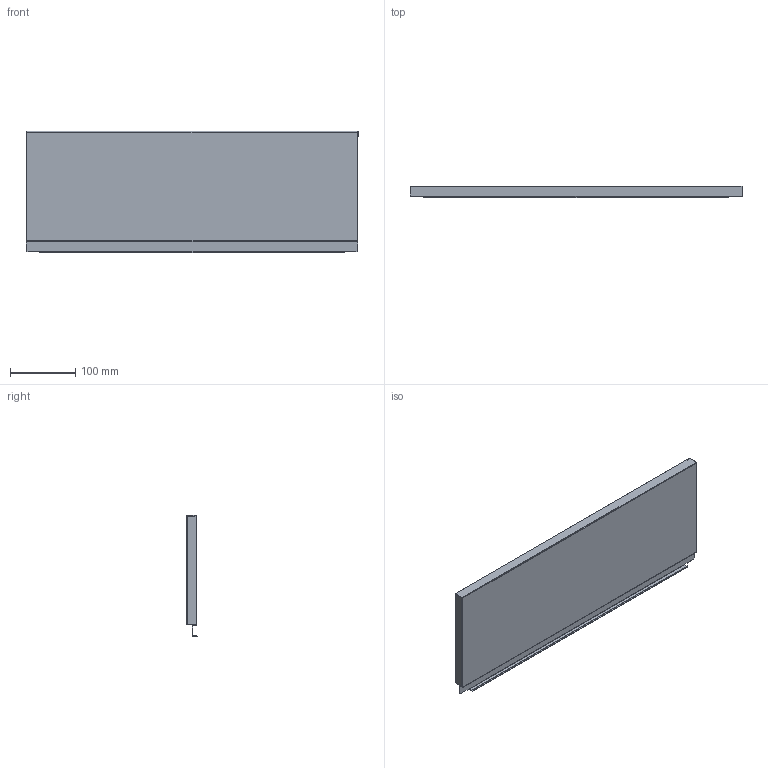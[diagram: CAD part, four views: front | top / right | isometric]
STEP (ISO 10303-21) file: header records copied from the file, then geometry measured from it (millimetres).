
FILE_DESCRIPTION (( 'STEP AP214' ), '1' );
FILE_NAME ('_STRW_H186_KAB_600.step', '2010-08-24T14:40:26', ( 'grass' ), ( '' ), 'SwSTEP 2.0', 'SolidWorks 2009', '' );
FILE_SCHEMA (( 'AUTOMOTIVE_DESIGN' ));
Length unit declared in the file: millimetre
Products named in the file (1): _STRW_H186_KAB_600
Bounding box: 510 x 17 x 186.14 mm (x, y, z)
Volume: 92041.1 mm3; surface area: 231338.2 mm2
Topology: 1 solids, 1 shells, 76 faces, 214 edges, 140 vertices
Faces by surface type: plane 54, cylinder 22
Entity records: 2472 total; most frequent: CARTESIAN_POINT 431, ORIENTED_EDGE 428, DIRECTION 412, EDGE_CURVE 214, LINE 170, VECTOR 170, VERTEX_POINT 140, AXIS2_PLACEMENT_3D 121
